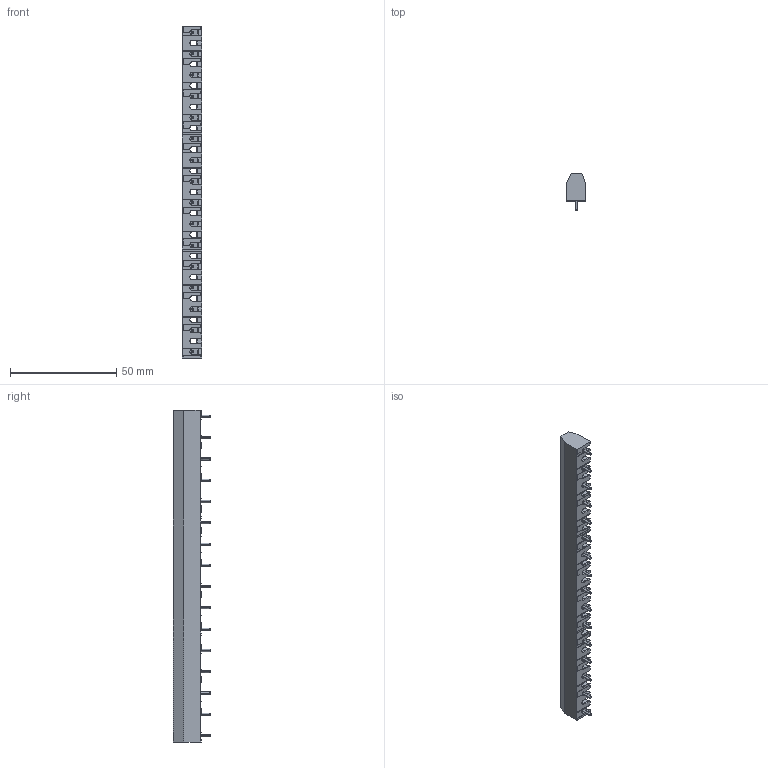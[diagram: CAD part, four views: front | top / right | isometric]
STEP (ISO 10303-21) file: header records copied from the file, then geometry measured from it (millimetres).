
FILE_DESCRIPTION (( 'STEP AP203' ), '1' );
FILE_NAME ('979-16.STEP', '2019-01-25T01:32:59', ( '' ), ( '' ), 'SwSTEP 2.0', 'SolidWorks 2016', '' );
FILE_SCHEMA (( 'CONFIG_CONTROL_DESIGN' ));
Length unit declared in the file: millimetre
Products named in the file (1): 979-16
Bounding box: 9 x 17.4 x 156 mm (x, y, z)
Volume: 10973.5 mm3; surface area: 11620 mm2
Topology: 1 solids, 1 shells, 1464 faces, 4084 edges, 2671 vertices
Faces by surface type: plane 1026, cylinder 374, cone 64
Entity records: 46954 total; most frequent: CARTESIAN_POINT 8700, ORIENTED_EDGE 8168, DIRECTION 7731, EDGE_CURVE 4084, LINE 3111, VECTOR 3111, VERTEX_POINT 2671, AXIS2_PLACEMENT_3D 2310
